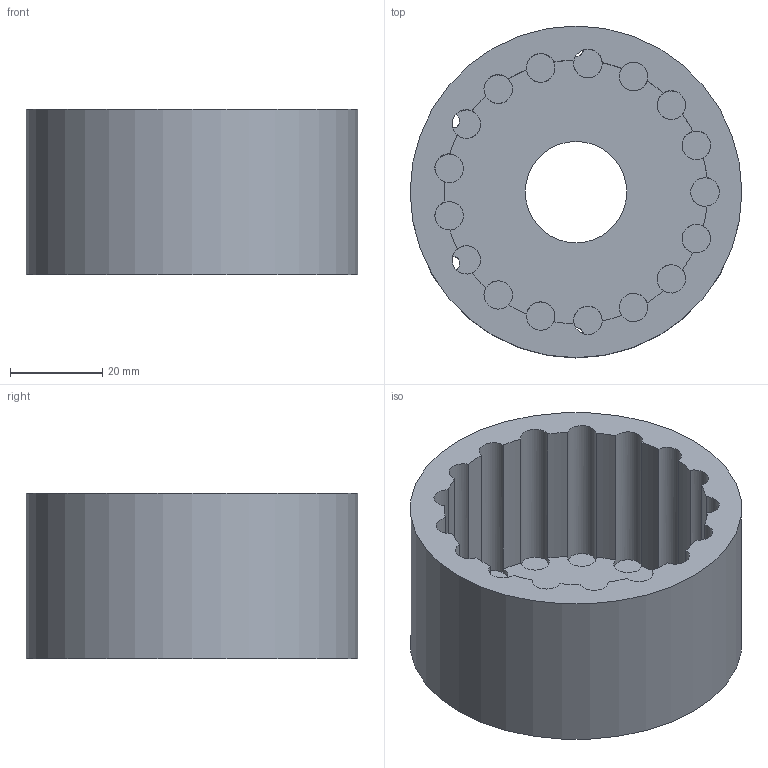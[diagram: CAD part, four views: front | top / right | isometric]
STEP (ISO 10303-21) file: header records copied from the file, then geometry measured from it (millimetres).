
FILE_DESCRIPTION(('FreeCAD Model'),'2;1');
FILE_NAME('Open CASCADE Shape Model','2026-11-09T00:40:16',('FreeCAD'),( 'FreeCAD'),'Open CASCADE STEP processor 7.8','FreeCAD','Unknown');
FILE_SCHEMA(('AUTOMOTIVE_DESIGN { 1 0 10303 214 1 1 1 1 }'));
Length unit declared in the file: millimetre
Products named in the file (1): Open CASCADE STEP translator 7.8 1
Bounding box: 72 x 72 x 36 mm (x, y, z)
Volume: 53206.3 mm3; surface area: 23837.9 mm2
Topology: 1 solids, 1 shells, 68 faces, 201 edges, 134 vertices
Faces by surface type: cylinder 42, plane 26
Full cylindrical faces by diameter (mm): 3.2 x6, 6.2 x17, 22 x1, 72 x1
Entity records: 2389 total; most frequent: DIRECTION 473, CARTESIAN_POINT 404, ORIENTED_EDGE 402, AXIS2_PLACEMENT_3D 203, EDGE_CURVE 201, VERTEX_POINT 134, CIRCLE 134, FACE_BOUND 77
